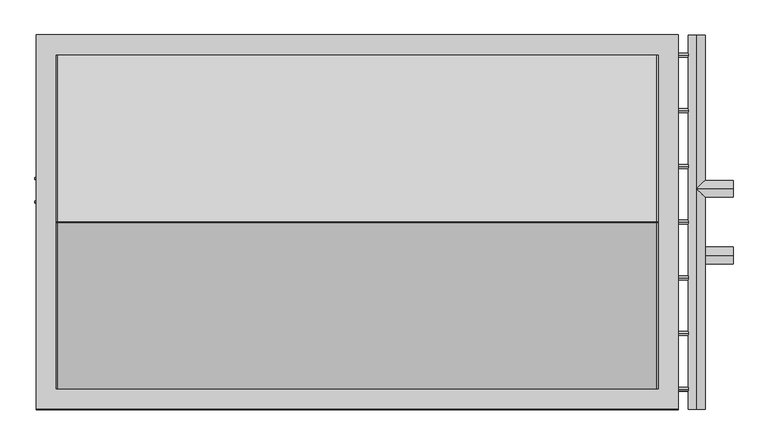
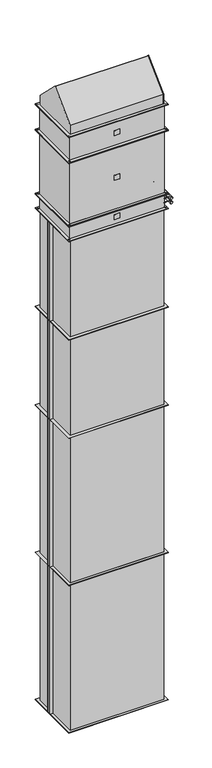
"""IFC4 building model written with IfcOpenShell, lengths in millimetres: proxy geometry, KORF_Завеса_ВодянойНагрев_PWZ_C : PWZ-C 90-50 W2."""

import ifcopenshell
import ifcopenshell.guid

model = None  # the IFC model being written
_history = None  # IfcOwnerHistory: only IFC2X3 demands one
_inside = {}  # id of a spatial element -> (the spatial element, [elements in it])
_under = {}  # id of a project, library or spatial element -> (it, [spatial elements below it])
_declared = {}  # id of a project -> (the project, [libraries it declares])
_typed = {}  # id of a type object -> (the type object, [elements of that type])
_made_of = {}  # id of a material, layer set ... -> (it, [elements and type objects made of it])


def new_model(schema):
    """Start an empty IFC model of exactly this schema.

    Asked for "IFC4X3", IfcOpenShell would pick the latest addendum, in which some entities
    have other attributes; the version numbers below select the first issue.
    IFC2X3 requires an IfcOwnerHistory on every rooted entity: one is made here for all.
    """
    global model, _history
    if schema == "IFC4X3":
        model = ifcopenshell.file(schema_version=(4, 3, 0, 0))
    else:
        model = ifcopenshell.file(schema=schema)
    _inside.clear()
    _under.clear()
    _declared.clear()
    _typed.clear()
    _made_of.clear()
    _history = None
    if model.schema == "IFC2X3":
        org = make("IfcOrganization", Name="unknown")
        user = make(
            "IfcPersonAndOrganization",
            ThePerson=make("IfcPerson", FamilyName="unknown"),
            TheOrganization=org,
        )
        app = make(
            "IfcApplication",
            ApplicationDeveloper=org,
            Version="unknown",
            ApplicationFullName="unknown",
            ApplicationIdentifier="unknown",
        )
        _history = make(
            "IfcOwnerHistory",
            OwningUser=user,
            OwningApplication=app,
            ChangeAction="ADDED",
            CreationDate=0,
        )
    return model


def make(cls, **values):
    """One entity of the class cls with the attributes given. An attribute that is None is left unset."""
    return model.create_entity(
        cls, **{name: value for name, value in values.items() if value is not None}
    )


def rooted(cls, **values):
    """An entity with a GlobalId (a new one), such as an element, a storey or a relation."""
    return make(cls, GlobalId=ifcopenshell.guid.new(), OwnerHistory=_history, **values)


def si_unit(unit_type, name, prefix=None):
    """IfcSIUnit, for example si_unit("LENGTHUNIT", "METRE", prefix="MILLI")."""
    return make("IfcSIUnit", UnitType=unit_type, Prefix=prefix, Name=name)


def assignment(units):
    """IfcUnitAssignment: the units of a project."""
    return None if units is None else make("IfcUnitAssignment", Units=units)


def point(xyz):
    """IfcCartesianPoint."""
    return None if xyz is None else make("IfcCartesianPoint", Coordinates=xyz)


def direction(xyz):
    """IfcDirection."""
    return None if xyz is None else make("IfcDirection", DirectionRatios=xyz)


def frame(location, z_axis=None, x_axis=None):
    """IfcAxis2Placement3D, a coordinate frame: its origin and axes. An axis left out is left unset."""
    return make(
        "IfcAxis2Placement3D",
        Location=point(location),
        Axis=direction(z_axis),
        RefDirection=direction(x_axis),
    )


def frame_2d(location, x_axis=None):
    """IfcAxis2Placement2D, a coordinate frame in the plane: its origin and x axis."""
    return make(
        "IfcAxis2Placement2D", Location=point(location), RefDirection=direction(x_axis)
    )


def origin():
    """The frame at (0, 0, 0) with its axes left unset."""
    return frame((0.0, 0.0, 0.0))


def origin_with_axes():
    """The frame at (0, 0, 0) with the z axis (0, 0, 1) and the x axis (1, 0, 0) written out."""
    return frame((0.0, 0.0, 0.0), z_axis=(0.0, 0.0, 1.0), x_axis=(1.0, 0.0, 0.0))


def place(relative_to, where):
    """IfcLocalPlacement: puts the frame where relative to a parent placement (None: the world)."""
    return make(
        "IfcLocalPlacement", PlacementRelTo=relative_to, RelativePlacement=where
    )


def context(
    kind, dimensions, precision=None, world=None, true_north=None, identifier=None
):
    """IfcGeometricRepresentationContext, for example the 3D "Model" context."""
    return make(
        "IfcGeometricRepresentationContext",
        ContextIdentifier=identifier,
        ContextType=kind,
        CoordinateSpaceDimension=dimensions,
        Precision=precision,
        WorldCoordinateSystem=world,
        TrueNorth=true_north,
    )


def project(units=None, contexts=None):
    """IfcProject with its units and contexts."""
    return rooted(
        "IfcProject",
        Name="project",
        RepresentationContexts=contexts,
        UnitsInContext=assignment(units),
    )


def spatial(cls, under=None, at=None, **own):
    """A site, building, storey or space (cls), placed at a placement, below another one or the project."""
    s = rooted(cls, ObjectPlacement=at, **own)
    if under is not None:
        _under.setdefault(under.id(), (under, []))[1].append(s)
    return s


def polyline(points):
    """IfcPolyline through the points."""
    return make("IfcPolyline", Points=[point(p) for p in points])


def circle_curve(where, radius):
    """IfcCircle in the frame where."""
    return make("IfcCircle", Position=where, Radius=radius)


def ellipse_curve(where, semi_axis1, semi_axis2):
    """IfcEllipse in the frame where."""
    return make(
        "IfcEllipse", Position=where, SemiAxis1=semi_axis1, SemiAxis2=semi_axis2
    )


def trimmed(basis, trim1, trim2, sense, master):
    """IfcTrimmedCurve: the piece of a basis curve between two trims."""
    return make(
        "IfcTrimmedCurve",
        BasisCurve=basis,
        Trim1=trim1,
        Trim2=trim2,
        SenseAgreement=sense,
        MasterRepresentation=master,
    )


def segment(curve, same_sense, transition):
    """IfcCompositeCurveSegment."""
    return make(
        "IfcCompositeCurveSegment",
        Transition=transition,
        SameSense=same_sense,
        ParentCurve=curve,
    )


def composite_curve(segments, self_intersect=None):
    """IfcCompositeCurve: segments joined end to end."""
    return make("IfcCompositeCurve", Segments=segments, SelfIntersect=self_intersect)


def outline(outer, holes=None, kind="AREA"):
    """IfcArbitraryClosedProfileDef: a profile drawn as a closed curve; with holes, ...WithVoids."""
    if holes is None:
        return make("IfcArbitraryClosedProfileDef", ProfileType=kind, OuterCurve=outer)
    return make(
        "IfcArbitraryProfileDefWithVoids",
        ProfileType=kind,
        OuterCurve=outer,
        InnerCurves=holes,
    )


def extrude(swept, where, along, depth):
    """IfcExtrudedAreaSolid: the profile swept, set in the frame where, extruded along a direction by depth."""
    return make(
        "IfcExtrudedAreaSolid",
        SweptArea=swept,
        Position=where,
        ExtrudedDirection=direction(along),
        Depth=depth,
    )


def shape(context_of_items, identifier, shape_type, items):
    """IfcShapeRepresentation: the items that make up one representation, for example the "Body"."""
    return make(
        "IfcShapeRepresentation",
        ContextOfItems=context_of_items,
        RepresentationIdentifier=identifier,
        RepresentationType=shape_type,
        Items=items,
    )


def source(mapping_origin, context_of_items, identifier, shape_type, items):
    """IfcRepresentationMap: a shape defined once, which mapped items show again and again."""
    return make(
        "IfcRepresentationMap",
        MappingOrigin=mapping_origin,
        MappedRepresentation=shape(context_of_items, identifier, shape_type, items),
    )


def transform(
    local_origin,
    x_axis=None,
    y_axis=None,
    z_axis=None,
    scale=None,
    scale2=None,
    scale3=None,
    uniform=True,
):
    """IfcCartesianTransformationOperator3D, or its non-uniform kind. x_axis, y_axis, z_axis: its Axis1, 2, 3."""
    if uniform:
        return make(
            "IfcCartesianTransformationOperator3D",
            Axis1=direction(x_axis),
            Axis2=direction(y_axis),
            LocalOrigin=point(local_origin),
            Scale=scale,
            Axis3=direction(z_axis),
        )
    return make(
        "IfcCartesianTransformationOperator3DnonUniform",
        Axis1=direction(x_axis),
        Axis2=direction(y_axis),
        LocalOrigin=point(local_origin),
        Scale=scale,
        Axis3=direction(z_axis),
        Scale2=scale2,
        Scale3=scale3,
    )


def mapped(mapping_source, mapping_target):
    """IfcMappedItem: shows the shape of a source again, moved by a transform."""
    return make(
        "IfcMappedItem", MappingSource=mapping_source, MappingTarget=mapping_target
    )


def made_of(thing, what):
    """Note that an element or type object is made of a material, layer set ...; save() writes the relation."""
    if what is not None:
        _made_of.setdefault(what.id(), (what, []))[1].append(thing)
    return thing


def element(
    cls,
    number,
    at=None,
    inside=None,
    cuts=None,
    type_object=None,
    material=None,
    context=None,
    identifier="Body",
    shape_type=None,
    held_by="IfcProductDefinitionShape",
    body=None,
    shapes=None,
    **own,
):
    """One element of the class cls, such as IfcWall. Its Tag is "e" and its number.

    at: its placement. inside: the storey or other place that contains it. cuts: it is an
    opening in that element (IfcRelVoidsElement). A single representation is given by context,
    identifier, shape_type and body (its items); several are given by shapes. held_by: the class
    of the entity that holds the representations. save() writes the other relations.
    """
    e = rooted(cls, Tag="e%d" % number, ObjectPlacement=at, **own)
    if body is not None:
        shapes = [shape(context, identifier, shape_type, body)]
    if shapes is not None:
        e.Representation = make(held_by, Representations=shapes)
    if inside is not None:
        _inside.setdefault(inside.id(), (inside, []))[1].append(e)
    if cuts is not None:
        rooted(
            "IfcRelVoidsElement", RelatingBuildingElement=cuts, RelatedOpeningElement=e
        )
    if type_object is not None:
        _typed.setdefault(type_object.id(), (type_object, []))[1].append(e)
    return made_of(e, material)


def aggregate(whole, parts):
    """IfcRelAggregates: a whole, such as a stair, and the parts it consists of."""
    return rooted("IfcRelAggregates", RelatingObject=whole, RelatedObjects=parts)


def save(model, path):
    """Write the relations noted so far, then the file.

    IfcRelAggregates (storeys below a building ...), IfcRelContainedInSpatialStructure (elements
    in a storey), IfcRelDefinesByType, IfcRelAssociatesMaterial and IfcRelDeclares: one each for
    every whole, place, type object, material and project.
    """
    for whole, parts in _under.values():
        aggregate(whole, parts)
    for where, things in _inside.values():
        rooted(
            "IfcRelContainedInSpatialStructure",
            RelatedElements=things,
            RelatingStructure=where,
        )
    for kind, things in _typed.values():
        rooted("IfcRelDefinesByType", RelatedObjects=things, RelatingType=kind)
    for what, things in _made_of.values():
        rooted("IfcRelAssociatesMaterial", RelatedObjects=things, RelatingMaterial=what)
    for by, libraries in _declared.values():
        rooted("IfcRelDeclares", RelatingContext=by, RelatedDefinitions=libraries)
    model.write(path)


def plane_surface(at):
    """IfcPlane: the flat surface through the origin of the frame at, square to its z axis."""
    return make("IfcPlane", Position=at)


def cylinder_surface(at, radius):
    """IfcCylindricalSurface: all points at the distance radius from the z axis of the frame at."""
    return make("IfcCylindricalSurface", Position=at, Radius=radius)


def advanced_brep(points, edges, surfaces, faces):
    """IfcAdvancedBrep: a solid bounded by faces that lie on surfaces and meet in shared edges.

    An edge is (start, end): straight between two places in points (the first is 0);
    or (start, end, curve); or (start, end, curve, False) where it runs against its curve.
    A face is (place in surfaces, loops), or (place, loops, False) where it looks against
    its surface's normal. A loop lists edges by number (the first is 1), with a minus sign
    where the edge is run from its end to its start. The first loop is the outer one.
    """
    corners = [point(p) for p in points]
    vertices = [make("IfcVertexPoint", VertexGeometry=c) for c in corners]
    made = []
    for start, end, *more in edges:
        made.append(
            make(
                "IfcEdgeCurve",
                EdgeStart=vertices[start],
                EdgeEnd=vertices[end],
                EdgeGeometry=more[0] if more else make("IfcPolyline", Points=[corners[start], corners[end]]),
                SameSense=more[1] if len(more) > 1 else True,
            )
        )
    hull = []
    for where, loops, *sense in faces:
        bounds = []
        for j, loop in enumerate(loops):
            ring = [make("IfcOrientedEdge", EdgeElement=made[abs(k) - 1], Orientation=k > 0) for k in loop]
            bounds.append(
                make(
                    "IfcFaceOuterBound" if j == 0 else "IfcFaceBound",
                    Bound=make("IfcEdgeLoop", EdgeList=ring),
                    Orientation=True,
                )
            )
        hull.append(make("IfcAdvancedFace", Bounds=bounds, FaceSurface=surfaces[where], SameSense=sense[0] if sense else True))
    return make("IfcAdvancedBrep", Outer=make("IfcClosedShell", CfsFaces=hull))


def mechanical_equipment_1296d030(model_context):
    return source(origin(), model_context, "Body", "SolidModel", [
        extrude(outline(polyline([(25.0, -255.0), (-25.0, -255.0), (-25.0, -253.0), (25.0, -253.0), (25.0, -255.0)])), frame((0.0, 0.0, 5050.0), z_axis=(0.0, 0.0, 1.0), x_axis=(1.0, 0.0, 0.0)), (0.0, 0.0, 1.0), 50.0),
        extrude(outline(polyline([(480.0, -280.0), (-480.0, -280.0), (-480.0, 280.0), (480.0, 280.0), (480.0, -280.0)]), holes=[polyline([(450.0, -250.0), (450.0, 250.0), (-450.0, 250.0), (-450.0, -250.0), (450.0, -250.0)]), composite_curve([segment(trimmed(circle_curve(frame_2d((-465.0, -260.0)), 5.5), [point((-459.5, -260.0))], [point((-470.5, -260.0))], True, "CARTESIAN"), True, "CONTINUOUS"), segment(trimmed(circle_curve(frame_2d((-465.0, -260.0)), 5.5), [point((-470.5, -260.0))], [point((-459.5, -260.0))], True, "CARTESIAN"), True, "CONTINUOUS")], self_intersect=False), composite_curve([segment(trimmed(circle_curve(frame_2d((465.0, -260.0)), 5.5), [point((470.5, -260.0))], [point((459.5, -260.0))], True, "CARTESIAN"), True, "CONTINUOUS"), segment(trimmed(circle_curve(frame_2d((465.0, -260.0)), 5.5), [point((459.5, -260.0))], [point((470.5, -260.0))], True, "CARTESIAN"), True, "CONTINUOUS")], self_intersect=False), composite_curve([segment(trimmed(circle_curve(frame_2d((465.0, 260.0)), 5.5), [point((470.5, 260.0))], [point((459.5, 260.0))], True, "CARTESIAN"), True, "CONTINUOUS"), segment(trimmed(circle_curve(frame_2d((465.0, 260.0)), 5.5), [point((459.5, 260.0))], [point((470.5, 260.0))], True, "CARTESIAN"), True, "CONTINUOUS")], self_intersect=False), composite_curve([segment(trimmed(circle_curve(frame_2d((-465.0, 260.0)), 5.5), [point((-459.5, 260.0))], [point((-470.5, 260.0))], True, "CARTESIAN"), True, "CONTINUOUS"), segment(trimmed(circle_curve(frame_2d((-465.0, 260.0)), 5.5), [point((-470.5, 260.0))], [point((-459.5, 260.0))], True, "CARTESIAN"), True, "CONTINUOUS")], self_intersect=False)]), frame((0.0, 0.0, 5145.0), z_axis=(0.0, 0.0, 1.0), x_axis=(1.0, 0.0, 0.0)), (0.0, 0.0, 1.0), 5.0),
        extrude(outline(polyline([(480.0, -280.0), (-480.0, -280.0), (-480.0, 280.0), (480.0, 280.0), (480.0, -280.0)]), holes=[polyline([(450.0, -250.0), (450.0, 250.0), (-450.0, 250.0), (-450.0, -250.0), (450.0, -250.0)]), composite_curve([segment(trimmed(circle_curve(frame_2d((-465.0, -260.0)), 5.5), [point((-459.5, -260.0))], [point((-470.5, -260.0))], True, "CARTESIAN"), True, "CONTINUOUS"), segment(trimmed(circle_curve(frame_2d((-465.0, -260.0)), 5.5), [point((-470.5, -260.0))], [point((-459.5, -260.0))], True, "CARTESIAN"), True, "CONTINUOUS")], self_intersect=False), composite_curve([segment(trimmed(circle_curve(frame_2d((465.0, -260.0)), 5.5), [point((470.5, -260.0))], [point((459.5, -260.0))], True, "CARTESIAN"), True, "CONTINUOUS"), segment(trimmed(circle_curve(frame_2d((465.0, -260.0)), 5.5), [point((459.5, -260.0))], [point((470.5, -260.0))], True, "CARTESIAN"), True, "CONTINUOUS")], self_intersect=False), composite_curve([segment(trimmed(circle_curve(frame_2d((465.0, 260.0)), 5.5), [point((470.5, 260.0))], [point((459.5, 260.0))], True, "CARTESIAN"), True, "CONTINUOUS"), segment(trimmed(circle_curve(frame_2d((465.0, 260.0)), 5.5), [point((459.5, 260.0))], [point((470.5, 260.0))], True, "CARTESIAN"), True, "CONTINUOUS")], self_intersect=False), composite_curve([segment(trimmed(circle_curve(frame_2d((-465.0, 260.0)), 5.5), [point((-459.5, 260.0))], [point((-470.5, 260.0))], True, "CARTESIAN"), True, "CONTINUOUS"), segment(trimmed(circle_curve(frame_2d((-465.0, 260.0)), 5.5), [point((-470.5, 260.0))], [point((-459.5, 260.0))], True, "CARTESIAN"), True, "CONTINUOUS")], self_intersect=False)]), frame((0.0, 0.0, 5000.0), z_axis=(0.0, 0.0, 1.0), x_axis=(1.0, 0.0, 0.0)), (0.0, 0.0, 1.0), 5.0),
        extrude(outline(polyline([(453.0, -253.0), (-453.0, -253.0), (-453.0, 253.0), (453.0, 253.0), (453.0, -253.0)])), frame((0.0, 0.0, 5005.0), z_axis=(0.0, 0.0, 1.0), x_axis=(1.0, 0.0, 0.0)), (0.0, 0.0, 1.0), 140.0),
        advanced_brep(
        [(562.0, -50.0, 5041.0), (562.0, -50.0, 5066.0), (507.5, -50.0, 5041.0), (507.5, -50.0, 5066.0), (507.5, -280.0, 5041.0), (507.5, -280.0, 5066.0), (507.5, 280.0, 5041.0), (507.5, 280.0, 5066.0)],
        [
            (0, 1, circle_curve(frame((562.0, -50.0, 5053.5), z_axis=(1.0, 0.0, 0.0), x_axis=(0.0, 0.0, 1.0000000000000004)), 12.5)),
            (1, 0, circle_curve(frame((562.0, -50.0, 5053.5), z_axis=(1.0, 0.0, 0.0), x_axis=(0.0, 0.0, 1.0000000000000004)), 12.5)),
            (0, 2),
            (2, 3, ellipse_curve(frame((507.5, -50.0, 5053.5), z_axis=(0.7071067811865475, -0.7071067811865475, 0.0), x_axis=(0.7071067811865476, 0.7071067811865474, 0.0)), 17.6776695, 12.5)),
            (3, 1),
            (3, 2, ellipse_curve(frame((507.5, -50.0, 5053.5), z_axis=(0.7071067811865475, 0.7071067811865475, 0.0), x_axis=(0.7071067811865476, -0.7071067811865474, 0.0)), 17.6776695, 12.5)),
            (4, 5, circle_curve(frame((507.5, -280.0, 5053.5), z_axis=(0.0, -1.0, 0.0), x_axis=(0.0, 0.0, 1.0000000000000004)), 12.5)),
            (5, 4, circle_curve(frame((507.5, -280.0, 5053.5), z_axis=(0.0, -1.0, 0.0), x_axis=(0.0, 0.0, 1.0000000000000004)), 12.5)),
            (6, 7, circle_curve(frame((507.5, 280.0, 5053.5), z_axis=(0.0, 1.0, 0.0), x_axis=(0.0, 0.0, 1.0000000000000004)), 12.5)),
            (7, 6, circle_curve(frame((507.5, 280.0, 5053.5), z_axis=(0.0, 1.0, 0.0), x_axis=(0.0, 0.0, 1.0000000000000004)), 12.5)),
            (4, 2),
            (3, 5),
            (7, 3),
            (2, 6),
        ],
        [
            plane_surface(frame((562.0, -50.0, 5066.0), z_axis=(1.0, 0.0, 0.0), x_axis=(0.0, -1.0, 0.0))),
            cylinder_surface(frame((507.5, -50.0, 5053.5), z_axis=(1.0000000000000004, 0.0, 0.0), x_axis=(0.0, 0.0, 1.0000000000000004)), 12.5),
            plane_surface(frame((507.5, -280.0, 5066.0), z_axis=(0.0, -1.0, 0.0), x_axis=(-1.0, 0.0, 0.0))),
            plane_surface(frame((507.5, 280.0, 5066.0), z_axis=(0.0, 1.0, 0.0), x_axis=(1.0, 0.0, 0.0))),
            cylinder_surface(frame((507.5, 280.0, 5053.5), z_axis=(0.0, -1.0, 0.0), x_axis=(0.0, 0.0, 1.0000000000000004)), 12.5),
        ],
        [
            (0, [[1, 2]]),
            (1, [[-1, 3, 4, 5]]),
            (1, [[-2, -5, 6, -3]]),
            (2, [[7, 8]]),
            (3, [[9, 10]]),
            (4, [[-7, 11, -6, 12]]),
            (4, [[-10, 13, -4, 14]]),
            (4, [[-8, -12, -13, -9, -14, -11]]),
        ],
    ),
        advanced_brep(
        [(562.0, 50.0, 5084.0), (562.0, 50.0, 5109.0), (507.5, 50.0, 5084.0), (507.5, 50.0, 5109.0), (507.5, -280.0, 5084.0), (507.5, -280.0, 5109.0), (507.5, 280.0, 5084.0), (507.5, 280.0, 5109.0)],
        [
            (0, 1, circle_curve(frame((562.0, 50.0, 5096.5), z_axis=(1.0, 0.0, 0.0), x_axis=(0.0, 0.0, 1.0000000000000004)), 12.5)),
            (1, 0, circle_curve(frame((562.0, 50.0, 5096.5), z_axis=(1.0, 0.0, 0.0), x_axis=(0.0, 0.0, 1.0000000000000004)), 12.5)),
            (0, 2),
            (2, 3, ellipse_curve(frame((507.5, 50.0, 5096.5), z_axis=(0.7071067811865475, -0.7071067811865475, 0.0), x_axis=(0.7071067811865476, 0.7071067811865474, 0.0)), 17.6776695, 12.5)),
            (3, 1),
            (3, 2, ellipse_curve(frame((507.5, 50.0, 5096.5), z_axis=(0.7071067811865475, 0.7071067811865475, 0.0), x_axis=(0.7071067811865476, -0.7071067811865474, 0.0)), 17.6776695, 12.5)),
            (4, 5, circle_curve(frame((507.5, -280.0, 5096.5), z_axis=(0.0, -1.0, 0.0), x_axis=(0.0, 0.0, 1.0000000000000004)), 12.5)),
            (5, 4, circle_curve(frame((507.5, -280.0, 5096.5), z_axis=(0.0, -1.0, 0.0), x_axis=(0.0, 0.0, 1.0000000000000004)), 12.5)),
            (6, 7, circle_curve(frame((507.5, 280.0, 5096.5), z_axis=(0.0, 1.0, 0.0), x_axis=(0.0, 0.0, 1.0000000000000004)), 12.5)),
            (7, 6, circle_curve(frame((507.5, 280.0, 5096.5), z_axis=(0.0, 1.0, 0.0), x_axis=(0.0, 0.0, 1.0000000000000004)), 12.5)),
            (4, 2),
            (3, 5),
            (7, 3),
            (2, 6),
        ],
        [
            plane_surface(frame((562.0, -50.0, 5066.0), z_axis=(1.0, 0.0, 0.0), x_axis=(0.0, -1.0, 0.0))),
            cylinder_surface(frame((0.0, 50.0, 5096.5), z_axis=(1.0000000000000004, 0.0, 0.0), x_axis=(0.0, 0.0, 1.0000000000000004)), 12.5),
            plane_surface(frame((507.5, -280.0, 5066.0), z_axis=(0.0, -1.0, 0.0), x_axis=(-1.0, 0.0, 0.0))),
            plane_surface(frame((507.5, 280.0, 5066.0), z_axis=(0.0, 1.0, 0.0), x_axis=(1.0, 0.0, 0.0))),
            cylinder_surface(frame((507.5, 0.0, 5096.5), z_axis=(0.0, -1.0, 0.0), x_axis=(0.0, 0.0, 1.0000000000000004)), 12.5),
        ],
        [
            (0, [[1, 2]]),
            (1, [[-1, 3, 4, 5]]),
            (1, [[-2, -5, 6, -3]]),
            (2, [[7, 8]]),
            (3, [[9, 10]]),
            (4, [[-7, 11, -6, 12]]),
            (4, [[-10, 13, -4, 14]]),
            (4, [[-8, -12, -13, -9, -14, -11]]),
        ],
    ),
        extrude(outline(composite_curve([segment(trimmed(circle_curve(frame_2d((-250.0, 5053.5)), 3.0), [point((-250.0, 5050.5))], [point((-250.0, 5056.5))], False, "CARTESIAN"), True, "CONTINUOUS"), segment(trimmed(circle_curve(frame_2d((-250.0, 5053.5)), 3.0), [point((-250.0, 5056.5))], [point((-250.0, 5050.5))], False, "CARTESIAN"), True, "CONTINUOUS")], self_intersect=False)), frame((453.0, 0.0, 0.0), z_axis=(1.0, 0.0, 0.0), x_axis=(0.0, 1.0, 0.0)), (0.0, 0.0, 1.0), 54.5),
        extrude(outline(composite_curve([segment(trimmed(circle_curve(frame_2d((-166.6666667, 5053.5)), 3.0), [point((-166.6666667, 5050.5))], [point((-166.6666667, 5056.5))], False, "CARTESIAN"), True, "CONTINUOUS"), segment(trimmed(circle_curve(frame_2d((-166.6666667, 5053.5)), 3.0), [point((-166.6666667, 5056.5))], [point((-166.6666667, 5050.5))], False, "CARTESIAN"), True, "CONTINUOUS")], self_intersect=False)), frame((453.0, 0.0, 0.0), z_axis=(1.0, 0.0, 0.0), x_axis=(0.0, 1.0, 0.0)), (0.0, 0.0, 1.0), 54.5),
        extrude(outline(composite_curve([segment(trimmed(circle_curve(frame_2d((-83.3333333, 5053.5)), 3.0), [point((-83.3333333, 5050.5))], [point((-83.3333333, 5056.5))], False, "CARTESIAN"), True, "CONTINUOUS"), segment(trimmed(circle_curve(frame_2d((-83.3333333, 5053.5)), 3.0), [point((-83.3333333, 5056.5))], [point((-83.3333333, 5050.5))], False, "CARTESIAN"), True, "CONTINUOUS")], self_intersect=False)), frame((453.0, 0.0, 0.0), z_axis=(1.0, 0.0, 0.0), x_axis=(0.0, 1.0, 0.0)), (0.0, 0.0, 1.0), 54.5),
        extrude(outline(composite_curve([segment(trimmed(circle_curve(frame_2d((0.0, 5053.5)), 3.0), [point((0.0, 5050.5))], [point((0.0, 5056.5))], False, "CARTESIAN"), True, "CONTINUOUS"), segment(trimmed(circle_curve(frame_2d((0.0, 5053.5)), 3.0), [point((0.0, 5056.5))], [point((0.0, 5050.5))], False, "CARTESIAN"), True, "CONTINUOUS")], self_intersect=False)), frame((453.0, 0.0, 0.0), z_axis=(1.0, 0.0, 0.0), x_axis=(0.0, 1.0, 0.0)), (0.0, 0.0, 1.0), 54.5),
        extrude(outline(composite_curve([segment(trimmed(circle_curve(frame_2d((83.3333333, 5053.5)), 3.0), [point((83.3333333, 5050.5))], [point((83.3333333, 5056.5))], False, "CARTESIAN"), True, "CONTINUOUS"), segment(trimmed(circle_curve(frame_2d((83.3333333, 5053.5)), 3.0), [point((83.3333333, 5056.5))], [point((83.3333333, 5050.5))], False, "CARTESIAN"), True, "CONTINUOUS")], self_intersect=False)), frame((453.0, 0.0, 0.0), z_axis=(1.0, 0.0, 0.0), x_axis=(0.0, 1.0, 0.0)), (0.0, 0.0, 1.0), 54.5),
        extrude(outline(composite_curve([segment(trimmed(circle_curve(frame_2d((166.6666667, 5053.5)), 3.0), [point((166.6666667, 5050.5))], [point((166.6666667, 5056.5))], False, "CARTESIAN"), True, "CONTINUOUS"), segment(trimmed(circle_curve(frame_2d((166.6666667, 5053.5)), 3.0), [point((166.6666667, 5056.5))], [point((166.6666667, 5050.5))], False, "CARTESIAN"), True, "CONTINUOUS")], self_intersect=False)), frame((453.0, 0.0, 0.0), z_axis=(1.0, 0.0, 0.0), x_axis=(0.0, 1.0, 0.0)), (0.0, 0.0, 1.0), 54.5),
        extrude(outline(composite_curve([segment(trimmed(circle_curve(frame_2d((166.6666667, 5096.5)), 3.0), [point((166.6666667, 5093.5))], [point((166.6666667, 5099.5))], False, "CARTESIAN"), True, "CONTINUOUS"), segment(trimmed(circle_curve(frame_2d((166.6666667, 5096.5)), 3.0), [point((166.6666667, 5099.5))], [point((166.6666667, 5093.5))], False, "CARTESIAN"), True, "CONTINUOUS")], self_intersect=False)), frame((453.0, 0.0, 0.0), z_axis=(1.0, 0.0, 0.0), x_axis=(0.0, 1.0, 0.0)), (0.0, 0.0, 1.0), 54.5),
        extrude(outline(composite_curve([segment(trimmed(circle_curve(frame_2d((83.3333333, 5096.5)), 3.0), [point((83.3333333, 5093.5))], [point((83.3333333, 5099.5))], False, "CARTESIAN"), True, "CONTINUOUS"), segment(trimmed(circle_curve(frame_2d((83.3333333, 5096.5)), 3.0), [point((83.3333333, 5099.5))], [point((83.3333333, 5093.5))], False, "CARTESIAN"), True, "CONTINUOUS")], self_intersect=False)), frame((453.0, 0.0, 0.0), z_axis=(1.0, 0.0, 0.0), x_axis=(0.0, 1.0, 0.0)), (0.0, 0.0, 1.0), 54.5),
        extrude(outline(composite_curve([segment(trimmed(circle_curve(frame_2d((0.0, 5096.5)), 3.0), [point((0.0, 5093.5))], [point((0.0, 5099.5))], False, "CARTESIAN"), True, "CONTINUOUS"), segment(trimmed(circle_curve(frame_2d((0.0, 5096.5)), 3.0), [point((0.0, 5099.5))], [point((0.0, 5093.5))], False, "CARTESIAN"), True, "CONTINUOUS")], self_intersect=False)), frame((453.0, 0.0, 0.0), z_axis=(1.0, 0.0, 0.0), x_axis=(0.0, 1.0, 0.0)), (0.0, 0.0, 1.0), 54.5),
        extrude(outline(composite_curve([segment(trimmed(circle_curve(frame_2d((-83.3333333, 5096.5)), 3.0), [point((-83.3333333, 5093.5))], [point((-83.3333333, 5099.5))], False, "CARTESIAN"), True, "CONTINUOUS"), segment(trimmed(circle_curve(frame_2d((-83.3333333, 5096.5)), 3.0), [point((-83.3333333, 5099.5))], [point((-83.3333333, 5093.5))], False, "CARTESIAN"), True, "CONTINUOUS")], self_intersect=False)), frame((453.0, 0.0, 0.0), z_axis=(1.0, 0.0, 0.0), x_axis=(0.0, 1.0, 0.0)), (0.0, 0.0, 1.0), 54.5),
        extrude(outline(composite_curve([segment(trimmed(circle_curve(frame_2d((-166.6666667, 5096.5)), 3.0), [point((-166.6666667, 5093.5))], [point((-166.6666667, 5099.5))], False, "CARTESIAN"), True, "CONTINUOUS"), segment(trimmed(circle_curve(frame_2d((-166.6666667, 5096.5)), 3.0), [point((-166.6666667, 5099.5))], [point((-166.6666667, 5093.5))], False, "CARTESIAN"), True, "CONTINUOUS")], self_intersect=False)), frame((453.0, 0.0, 0.0), z_axis=(1.0, 0.0, 0.0), x_axis=(0.0, 1.0, 0.0)), (0.0, 0.0, 1.0), 54.5),
        extrude(outline(composite_curve([segment(trimmed(circle_curve(frame_2d((-250.0, 5096.5)), 3.0), [point((-250.0, 5093.5))], [point((-250.0, 5099.5))], False, "CARTESIAN"), True, "CONTINUOUS"), segment(trimmed(circle_curve(frame_2d((-250.0, 5096.5)), 3.0), [point((-250.0, 5099.5))], [point((-250.0, 5093.5))], False, "CARTESIAN"), True, "CONTINUOUS")], self_intersect=False)), frame((453.0, 0.0, 0.0), z_axis=(1.0, 0.0, 0.0), x_axis=(0.0, 1.0, 0.0)), (0.0, 0.0, 1.0), 54.5),
        extrude(outline(composite_curve([segment(trimmed(circle_curve(frame_2d((250.0, 5053.5)), 3.0), [point((250.0, 5050.5))], [point((250.0, 5056.5))], False, "CARTESIAN"), True, "CONTINUOUS"), segment(trimmed(circle_curve(frame_2d((250.0, 5053.5)), 3.0), [point((250.0, 5056.5))], [point((250.0, 5050.5))], False, "CARTESIAN"), True, "CONTINUOUS")], self_intersect=False)), frame((453.0, 0.0, 0.0), z_axis=(1.0, 0.0, 0.0), x_axis=(0.0, 1.0, 0.0)), (0.0, 0.0, 1.0), 54.5),
        extrude(outline(composite_curve([segment(trimmed(circle_curve(frame_2d((250.0, 5096.5)), 3.0), [point((250.0, 5093.5))], [point((250.0, 5099.5))], False, "CARTESIAN"), True, "CONTINUOUS"), segment(trimmed(circle_curve(frame_2d((250.0, 5096.5)), 3.0), [point((250.0, 5099.5))], [point((250.0, 5093.5))], False, "CARTESIAN"), True, "CONTINUOUS")], self_intersect=False)), frame((453.0, 0.0, 0.0), z_axis=(1.0, 0.0, 0.0), x_axis=(0.0, 1.0, 0.0)), (0.0, 0.0, 1.0), 54.5),
        extrude(outline(polyline([(25.0, -255.0), (-25.0, -255.0), (-25.0, -253.0), (25.0, -253.0), (25.0, -255.0)])), frame((0.0, 0.0, 5905.0), z_axis=(0.0, 0.0, 1.0), x_axis=(1.0, 0.0, 0.0)), (0.0, 0.0, 1.0), 50.0),
        extrude(outline(polyline([(-480.0, -280.0), (-480.0, 280.0), (480.0, 280.0), (480.0, -280.0), (-480.0, -280.0)]), holes=[polyline([(-450.0, -250.0), (450.0, -250.0), (450.0, 250.0), (-450.0, 250.0), (-450.0, -250.0)]), composite_curve([segment(trimmed(circle_curve(frame_2d((465.0, -265.0)), 5.5), [point((470.5, -265.0))], [point((459.5, -265.0))], True, "CARTESIAN"), True, "CONTINUOUS"), segment(trimmed(circle_curve(frame_2d((465.0, -265.0)), 5.5), [point((459.5, -265.0))], [point((470.5, -265.0))], True, "CARTESIAN"), True, "CONTINUOUS")], self_intersect=False), composite_curve([segment(trimmed(circle_curve(frame_2d((-465.0, -265.0)), 5.5), [point((-459.5, -265.0))], [point((-470.5, -265.0))], True, "CARTESIAN"), True, "CONTINUOUS"), segment(trimmed(circle_curve(frame_2d((-465.0, -265.0)), 5.5), [point((-470.5, -265.0))], [point((-459.5, -265.0))], True, "CARTESIAN"), True, "CONTINUOUS")], self_intersect=False), composite_curve([segment(trimmed(circle_curve(frame_2d((-465.0, 265.0)), 5.5), [point((-459.5, 265.0))], [point((-470.5, 265.0))], True, "CARTESIAN"), True, "CONTINUOUS"), segment(trimmed(circle_curve(frame_2d((-465.0, 265.0)), 5.5), [point((-470.5, 265.0))], [point((-459.5, 265.0))], True, "CARTESIAN"), True, "CONTINUOUS")], self_intersect=False), composite_curve([segment(trimmed(circle_curve(frame_2d((465.0, 265.0)), 5.5), [point((470.5, 265.0))], [point((459.5, 265.0))], True, "CARTESIAN"), True, "CONTINUOUS"), segment(trimmed(circle_curve(frame_2d((465.0, 265.0)), 5.5), [point((459.5, 265.0))], [point((470.5, 265.0))], True, "CARTESIAN"), True, "CONTINUOUS")], self_intersect=False)]), frame((0.0, 0.0, 5800.0), z_axis=(0.0, 0.0, 1.0), x_axis=(1.0, 0.0, 0.0)), (0.0, 0.0, 1.0), 5.0),
        extrude(outline(polyline([(-480.0, -280.0), (-480.0, 280.0), (480.0, 280.0), (480.0, -280.0), (-480.0, -280.0)]), holes=[polyline([(-450.0, -250.0), (450.0, -250.0), (450.0, 250.0), (-450.0, 250.0), (-450.0, -250.0)]), composite_curve([segment(trimmed(circle_curve(frame_2d((465.0, -265.0)), 5.5), [point((470.5, -265.0))], [point((459.5, -265.0))], True, "CARTESIAN"), True, "CONTINUOUS"), segment(trimmed(circle_curve(frame_2d((465.0, -265.0)), 5.5), [point((459.5, -265.0))], [point((470.5, -265.0))], True, "CARTESIAN"), True, "CONTINUOUS")], self_intersect=False), composite_curve([segment(trimmed(circle_curve(frame_2d((-465.0, -265.0)), 5.5), [point((-459.5, -265.0))], [point((-470.5, -265.0))], True, "CARTESIAN"), True, "CONTINUOUS"), segment(trimmed(circle_curve(frame_2d((-465.0, -265.0)), 5.5), [point((-470.5, -265.0))], [point((-459.5, -265.0))], True, "CARTESIAN"), True, "CONTINUOUS")], self_intersect=False), composite_curve([segment(trimmed(circle_curve(frame_2d((-465.0, 265.0)), 5.5), [point((-459.5, 265.0))], [point((-470.5, 265.0))], True, "CARTESIAN"), True, "CONTINUOUS"), segment(trimmed(circle_curve(frame_2d((-465.0, 265.0)), 5.5), [point((-470.5, 265.0))], [point((-459.5, 265.0))], True, "CARTESIAN"), True, "CONTINUOUS")], self_intersect=False), composite_curve([segment(trimmed(circle_curve(frame_2d((465.0, 265.0)), 5.5), [point((470.5, 265.0))], [point((459.5, 265.0))], True, "CARTESIAN"), True, "CONTINUOUS"), segment(trimmed(circle_curve(frame_2d((465.0, 265.0)), 5.5), [point((459.5, 265.0))], [point((470.5, 265.0))], True, "CARTESIAN"), True, "CONTINUOUS")], self_intersect=False)]), frame((0.0, 0.0, 6055.0), z_axis=(0.0, 0.0, 1.0), x_axis=(1.0, 0.0, 0.0)), (0.0, 0.0, 1.0), 5.0),
        extrude(outline(polyline([(-453.0, -253.0), (-453.0, 253.0), (453.0, 253.0), (453.0, -253.0), (-453.0, -253.0)])), frame((0.0, 0.0, 5805.0), z_axis=(0.0, 0.0, 1.0), x_axis=(1.0, 0.0, 0.0)), (0.0, 0.0, 1.0), 250.0),
        extrude(outline(polyline([(25.0, -255.0), (-25.0, -255.0), (-25.0, -253.0), (25.0, -253.0), (25.0, -255.0)])), frame((0.0, 0.0, 5450.0), z_axis=(0.0, 0.0, 1.0), x_axis=(1.0, 0.0, 0.0)), (0.0, 0.0, 1.0), 50.0),
        extrude(outline(polyline([(480.0, -280.0), (-480.0, -280.0), (-480.0, 280.0), (480.0, 280.0), (480.0, -280.0)]), holes=[polyline([(450.0, -250.0), (450.0, 250.0), (-450.0, 250.0), (-450.0, -250.0), (450.0, -250.0)]), composite_curve([segment(trimmed(circle_curve(frame_2d((-465.0, -265.0)), 5.5), [point((-459.5, -265.0))], [point((-470.5, -265.0))], True, "CARTESIAN"), True, "CONTINUOUS"), segment(trimmed(circle_curve(frame_2d((-465.0, -265.0)), 5.5), [point((-470.5, -265.0))], [point((-459.5, -265.0))], True, "CARTESIAN"), True, "CONTINUOUS")], self_intersect=False), composite_curve([segment(trimmed(circle_curve(frame_2d((465.0, -265.0)), 5.5), [point((470.5, -265.0))], [point((459.5, -265.0))], True, "CARTESIAN"), True, "CONTINUOUS"), segment(trimmed(circle_curve(frame_2d((465.0, -265.0)), 5.5), [point((459.5, -265.0))], [point((470.5, -265.0))], True, "CARTESIAN"), True, "CONTINUOUS")], self_intersect=False), composite_curve([segment(trimmed(circle_curve(frame_2d((465.0, 265.0)), 5.5), [point((470.5, 265.0))], [point((459.5, 265.0))], True, "CARTESIAN"), True, "CONTINUOUS"), segment(trimmed(circle_curve(frame_2d((465.0, 265.0)), 5.5), [point((459.5, 265.0))], [point((470.5, 265.0))], True, "CARTESIAN"), True, "CONTINUOUS")], self_intersect=False), composite_curve([segment(trimmed(circle_curve(frame_2d((-465.0, 265.0)), 5.5), [point((-459.5, 265.0))], [point((-470.5, 265.0))], True, "CARTESIAN"), True, "CONTINUOUS"), segment(trimmed(circle_curve(frame_2d((-465.0, 265.0)), 5.5), [point((-470.5, 265.0))], [point((-459.5, 265.0))], True, "CARTESIAN"), True, "CONTINUOUS")], self_intersect=False)]), frame((0.0, 0.0, 5795.0), z_axis=(0.0, 0.0, 1.0), x_axis=(1.0, 0.0, 0.0)), (0.0, 0.0, 1.0), 5.0),
        extrude(outline(polyline([(480.0, -280.0), (-480.0, -280.0), (-480.0, 280.0), (480.0, 280.0), (480.0, -280.0)]), holes=[polyline([(450.0, -250.0), (450.0, 250.0), (-450.0, 250.0), (-450.0, -250.0), (450.0, -250.0)]), composite_curve([segment(trimmed(circle_curve(frame_2d((-465.0, -265.0)), 5.5), [point((-459.5, -265.0))], [point((-470.5, -265.0))], True, "CARTESIAN"), True, "CONTINUOUS"), segment(trimmed(circle_curve(frame_2d((-465.0, -265.0)), 5.5), [point((-470.5, -265.0))], [point((-459.5, -265.0))], True, "CARTESIAN"), True, "CONTINUOUS")], self_intersect=False), composite_curve([segment(trimmed(circle_curve(frame_2d((465.0, -265.0)), 5.5), [point((470.5, -265.0))], [point((459.5, -265.0))], True, "CARTESIAN"), True, "CONTINUOUS"), segment(trimmed(circle_curve(frame_2d((465.0, -265.0)), 5.5), [point((459.5, -265.0))], [point((470.5, -265.0))], True, "CARTESIAN"), True, "CONTINUOUS")], self_intersect=False), composite_curve([segment(trimmed(circle_curve(frame_2d((465.0, 265.0)), 5.5), [point((470.5, 265.0))], [point((459.5, 265.0))], True, "CARTESIAN"), True, "CONTINUOUS"), segment(trimmed(circle_curve(frame_2d((465.0, 265.0)), 5.5), [point((459.5, 265.0))], [point((470.5, 265.0))], True, "CARTESIAN"), True, "CONTINUOUS")], self_intersect=False), composite_curve([segment(trimmed(circle_curve(frame_2d((-465.0, 265.0)), 5.5), [point((-459.5, 265.0))], [point((-470.5, 265.0))], True, "CARTESIAN"), True, "CONTINUOUS"), segment(trimmed(circle_curve(frame_2d((-465.0, 265.0)), 5.5), [point((-470.5, 265.0))], [point((-459.5, 265.0))], True, "CARTESIAN"), True, "CONTINUOUS")], self_intersect=False)]), frame((0.0, 0.0, 5150.0), z_axis=(0.0, 0.0, 1.0), x_axis=(1.0, 0.0, 0.0)), (0.0, 0.0, 1.0), 5.0),
        extrude(outline(polyline([(453.0, -253.0), (-453.0, -253.0), (-453.0, 253.0), (453.0, 253.0), (453.0, -253.0)])), frame((0.0, 0.0, 5155.0), z_axis=(0.0, 0.0, 1.0), x_axis=(1.0, 0.0, 0.0)), (0.0, 0.0, 1.0), 640.0),
        extrude(outline(polyline([(450.0, 250.0), (450.0, -250.0), (-450.0, -250.0), (-450.0, 250.0), (450.0, 250.0)])), frame((0.0, 0.0, 4000.0), z_axis=(0.0, 0.0, 1.0), x_axis=(1.0, 0.0, 0.0)), (0.0, 0.0, 1.0), 1000.0),
        extrude(outline(polyline([(-478.0, 62.5), (-450.0, 62.5), (-450.0, 33.5), (-478.0, 33.5), (-478.0, 62.5)])), frame((0.0, 0.0, 4002.0), z_axis=(0.0, 0.0, 1.0), x_axis=(1.0, 0.0, 0.0)), (0.0, 0.0, 1.0), 996.0),
        extrude(outline(polyline([(-482.0, 66.5), (-450.0, 66.5), (-450.0, 64.5), (-482.0, 64.5), (-482.0, 66.5)])), frame((0.0, 0.0, 4002.0), z_axis=(0.0, 0.0, 1.0), x_axis=(1.0, 0.0, 0.0)), (0.0, 0.0, 1.0), 996.0),
        extrude(outline(polyline([(-482.0, 29.5), (-482.0, 31.5), (-450.0, 31.5), (-450.0, 29.5), (-482.0, 29.5)])), frame((0.0, 0.0, 4002.0), z_axis=(0.0, 0.0, 1.0), x_axis=(1.0, 0.0, 0.0)), (0.0, 0.0, 1.0), 996.0),
        extrude(outline(polyline([(480.0, 280.0), (480.0, -280.0), (-480.0, -280.0), (-480.0, 280.0), (480.0, 280.0)]), holes=[polyline([(450.0, 250.0), (-450.0, 250.0), (-450.0, -250.0), (450.0, -250.0), (450.0, 250.0)])]), frame((0.0, 0.0, 4998.0), z_axis=(0.0, 0.0, 1.0), x_axis=(1.0, 0.0, 0.0)), (0.0, 0.0, 1.0), 2.0),
        extrude(outline(polyline([(480.0, 280.0), (480.0, -280.0), (-480.0, -280.0), (-480.0, 280.0), (480.0, 280.0)]), holes=[polyline([(450.0, 250.0), (-450.0, 250.0), (-450.0, -250.0), (450.0, -250.0), (450.0, 250.0)])]), frame((0.0, 0.0, 4000.0), z_axis=(0.0, 0.0, 1.0), x_axis=(1.0, 0.0, 0.0)), (0.0, 0.0, 1.0), 2.0),
        extrude(outline(polyline([(450.0, 250.0), (450.0, -250.0), (-450.0, -250.0), (-450.0, 250.0), (450.0, 250.0)])), frame((0.0, 0.0, 3000.0), z_axis=(0.0, 0.0, 1.0), x_axis=(1.0, 0.0, 0.0)), (0.0, 0.0, 1.0), 1000.0),
        extrude(outline(polyline([(-478.0, 62.5), (-450.0, 62.5), (-450.0, 33.5), (-478.0, 33.5), (-478.0, 62.5)])), frame((0.0, 0.0, 3002.0), z_axis=(0.0, 0.0, 1.0), x_axis=(1.0, 0.0, 0.0)), (0.0, 0.0, 1.0), 996.0),
        extrude(outline(polyline([(-482.0, 66.5), (-450.0, 66.5), (-450.0, 64.5), (-482.0, 64.5), (-482.0, 66.5)])), frame((0.0, 0.0, 3002.0), z_axis=(0.0, 0.0, 1.0), x_axis=(1.0, 0.0, 0.0)), (0.0, 0.0, 1.0), 996.0),
        extrude(outline(polyline([(-482.0, 29.5), (-482.0, 31.5), (-450.0, 31.5), (-450.0, 29.5), (-482.0, 29.5)])), frame((0.0, 0.0, 3002.0), z_axis=(0.0, 0.0, 1.0), x_axis=(1.0, 0.0, 0.0)), (0.0, 0.0, 1.0), 996.0),
        extrude(outline(polyline([(480.0, 280.0), (480.0, -280.0), (-480.0, -280.0), (-480.0, 280.0), (480.0, 280.0)]), holes=[polyline([(450.0, 250.0), (-450.0, 250.0), (-450.0, -250.0), (450.0, -250.0), (450.0, 250.0)])]), frame((0.0, 0.0, 3998.0), z_axis=(0.0, 0.0, 1.0), x_axis=(1.0, 0.0, 0.0)), (0.0, 0.0, 1.0), 2.0),
        extrude(outline(polyline([(480.0, 280.0), (480.0, -280.0), (-480.0, -280.0), (-480.0, 280.0), (480.0, 280.0)]), holes=[polyline([(450.0, 250.0), (-450.0, 250.0), (-450.0, -250.0), (450.0, -250.0), (450.0, 250.0)])]), frame((0.0, 0.0, 3000.0), z_axis=(0.0, 0.0, 1.0), x_axis=(1.0, 0.0, 0.0)), (0.0, 0.0, 1.0), 2.0),
        extrude(outline(polyline([(450.0, 250.0), (450.0, -250.0), (-450.0, -250.0), (-450.0, 250.0), (450.0, 250.0)])), frame((0.0, 0.0, 1500.0), z_axis=(0.0, 0.0, 1.0), x_axis=(1.0, 0.0, 0.0)), (0.0, 0.0, 1.0), 1500.0),
        extrude(outline(polyline([(-478.0, 62.5), (-450.0, 62.5), (-450.0, 33.5), (-478.0, 33.5), (-478.0, 62.5)])), frame((0.0, 0.0, 1502.0), z_axis=(0.0, 0.0, 1.0), x_axis=(1.0, 0.0, 0.0)), (0.0, 0.0, 1.0), 1496.0),
        extrude(outline(polyline([(-482.0, 66.5), (-450.0, 66.5), (-450.0, 64.5), (-482.0, 64.5), (-482.0, 66.5)])), frame((0.0, 0.0, 1502.0), z_axis=(0.0, 0.0, 1.0), x_axis=(1.0, 0.0, 0.0)), (0.0, 0.0, 1.0), 1496.0),
        extrude(outline(polyline([(-482.0, 29.5), (-482.0, 31.5), (-450.0, 31.5), (-450.0, 29.5), (-482.0, 29.5)])), frame((0.0, 0.0, 1502.0), z_axis=(0.0, 0.0, 1.0), x_axis=(1.0, 0.0, 0.0)), (0.0, 0.0, 1.0), 1496.0),
        extrude(outline(polyline([(480.0, 280.0), (480.0, -280.0), (-480.0, -280.0), (-480.0, 280.0), (480.0, 280.0)]), holes=[polyline([(450.0, 250.0), (-450.0, 250.0), (-450.0, -250.0), (450.0, -250.0), (450.0, 250.0)])]), frame((0.0, 0.0, 2998.0), z_axis=(0.0, 0.0, 1.0), x_axis=(1.0, 0.0, 0.0)), (0.0, 0.0, 1.0), 2.0),
        extrude(outline(polyline([(480.0, 280.0), (480.0, -280.0), (-480.0, -280.0), (-480.0, 280.0), (480.0, 280.0)]), holes=[polyline([(450.0, 250.0), (-450.0, 250.0), (-450.0, -250.0), (450.0, -250.0), (450.0, 250.0)])]), frame((0.0, 0.0, 1500.0), z_axis=(0.0, 0.0, 1.0), x_axis=(1.0, 0.0, 0.0)), (0.0, 0.0, 1.0), 2.0),
        extrude(outline(polyline([(450.0, 250.0), (450.0, -250.0), (-450.0, -250.0), (-450.0, 250.0), (450.0, 250.0)])), origin_with_axes(), (0.0, 0.0, 1.0), 1500.0),
        extrude(outline(polyline([(-478.0, 62.5), (-450.0, 62.5), (-450.0, 33.5), (-478.0, 33.5), (-478.0, 62.5)])), frame((0.0, 0.0, 2.0), z_axis=(0.0, 0.0, 1.0), x_axis=(1.0, 0.0, 0.0)), (0.0, 0.0, 1.0), 1496.0),
        extrude(outline(polyline([(-482.0, 66.5), (-450.0, 66.5), (-450.0, 64.5), (-482.0, 64.5), (-482.0, 66.5)])), frame((0.0, 0.0, 2.0), z_axis=(0.0, 0.0, 1.0), x_axis=(1.0, 0.0, 0.0)), (0.0, 0.0, 1.0), 1496.0),
        extrude(outline(polyline([(-482.0, 29.5), (-482.0, 31.5), (-450.0, 31.5), (-450.0, 29.5), (-482.0, 29.5)])), frame((0.0, 0.0, 2.0), z_axis=(0.0, 0.0, 1.0), x_axis=(1.0, 0.0, 0.0)), (0.0, 0.0, 1.0), 1496.0),
        extrude(outline(polyline([(480.0, 280.0), (480.0, -280.0), (-480.0, -280.0), (-480.0, 280.0), (480.0, 280.0)]), holes=[polyline([(450.0, 250.0), (-450.0, 250.0), (-450.0, -250.0), (450.0, -250.0), (450.0, 250.0)])]), frame((0.0, 0.0, 1498.0), z_axis=(0.0, 0.0, 1.0), x_axis=(1.0, 0.0, 0.0)), (0.0, 0.0, 1.0), 2.0),
        extrude(outline(polyline([(480.0, 280.0), (480.0, -280.0), (-480.0, -280.0), (-480.0, 280.0), (480.0, 280.0)]), holes=[polyline([(450.0, 250.0), (-450.0, 250.0), (-450.0, -250.0), (450.0, -250.0), (450.0, 250.0)])]), origin_with_axes(), (0.0, 0.0, 1.0), 2.0),
        extrude(outline(composite_curve([segment(polyline([(250.0, 6157.1428571), (250.0, 6062.0), (-250.0, 6062.0), (-250.0, 6157.1428571), (-0.6395979, 6399.3786763)]), True, "CONTINUOUS"), segment(trimmed(circle_curve(frame_2d((0.0, 6398.7202668)), 0.9179263), [point((-0.6395979, 6399.3786763))], [point((0.6395979, 6399.3786763))], False, "CARTESIAN"), True, "CONTINUOUS"), segment(polyline([(0.6395979, 6399.3786763), (250.0, 6157.1428571)]), True, "CONTINUOUS")], self_intersect=False)), frame((448.0, 0.0, 0.0), z_axis=(1.0, 0.0, 0.0), x_axis=(0.0, 1.0, 0.0)), (0.0, 0.0, 1.0), 2.0),
        extrude(outline(composite_curve([segment(polyline([(250.0, 6157.1428571), (250.0, 6062.0), (-250.0, 6062.0), (-250.0, 6157.1428571), (-0.6395979, 6399.3786763)]), True, "CONTINUOUS"), segment(trimmed(circle_curve(frame_2d((0.0, 6398.7202668)), 0.9179263), [point((-0.6395979, 6399.3786763))], [point((0.6395979, 6399.3786763))], False, "CARTESIAN"), True, "CONTINUOUS"), segment(polyline([(0.6395979, 6399.3786763), (250.0, 6157.1428571)]), True, "CONTINUOUS")], self_intersect=False)), frame((-448.0, 0.0, 0.0), z_axis=(1.0, 0.0, 0.0), x_axis=(0.0, 1.0, 0.0)), (0.0, 0.0, 1.0), 896.0),
        extrude(outline(composite_curve([segment(polyline([(250.0, 6157.1428571), (250.0, 6062.0), (-250.0, 6062.0), (-250.0, 6157.1428571), (-0.6395979, 6399.3786763)]), True, "CONTINUOUS"), segment(trimmed(circle_curve(frame_2d((0.0, 6398.7202668)), 0.9179263), [point((-0.6395979, 6399.3786763))], [point((0.6395979, 6399.3786763))], False, "CARTESIAN"), True, "CONTINUOUS"), segment(polyline([(0.6395979, 6399.3786763), (250.0, 6157.1428571)]), True, "CONTINUOUS")], self_intersect=False)), frame((-450.0, 0.0, 0.0), z_axis=(1.0, 0.0, 0.0), x_axis=(0.0, 1.0, 0.0)), (0.0, 0.0, 1.0), 2.0),
        extrude(outline(polyline([(480.0, 280.0), (480.0, -280.0), (-480.0, -280.0), (-480.0, 280.0), (480.0, 280.0)]), holes=[polyline([(-450.0, 250.0), (-450.0, -250.0), (450.0, -250.0), (450.0, 250.0), (-450.0, 250.0)])]), frame((0.0, 0.0, 6060.0), z_axis=(0.0, 0.0, 1.0), x_axis=(1.0, 0.0, 0.0)), (0.0, 0.0, 1.0), 2.0),
    ])


if __name__ == "__main__":
    model = new_model("IFC4")
    model_context = context("Model", 3, world=origin())
    ifc_project = project(units=[si_unit("LENGTHUNIT", "METRE", prefix="MILLI")], contexts=[model_context])
    site = spatial("IfcSite", under=ifc_project)
    building = spatial("IfcBuilding", under=site)
    placement = place(None, origin())
    mechanical_equipment_shape = mechanical_equipment_1296d030(model_context)
    element("IfcBuildingElementProxy", 1, Name="KORF_Завеса_ВодянойНагрев_PWZ_C : PWZ-C 90-50 W2", ObjectType="KORF_Завеса_ВодянойНагрев_PWZ_C : PWZ-C 90-50 W2", at=placement, inside=building, context=model_context, shape_type="MappedRepresentation", body=[
        mapped(mechanical_equipment_shape, transform((0.0, 0.0, 0.0), x_axis=(1.0, 0.0, 0.0), y_axis=(0.0, 1.0, 0.0), z_axis=(0.0, 0.0, 1.0))),
    ])
    save(model, "model.ifc")
